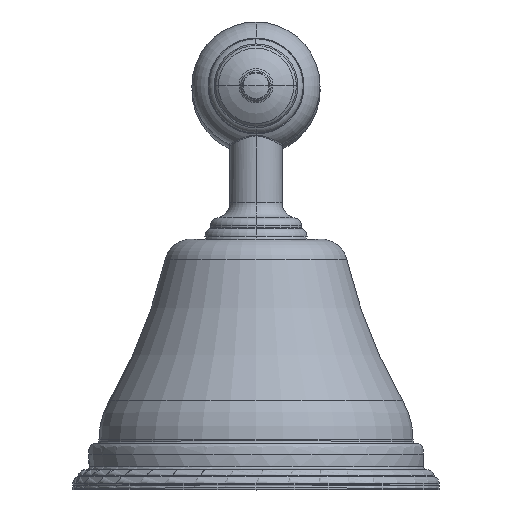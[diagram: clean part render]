
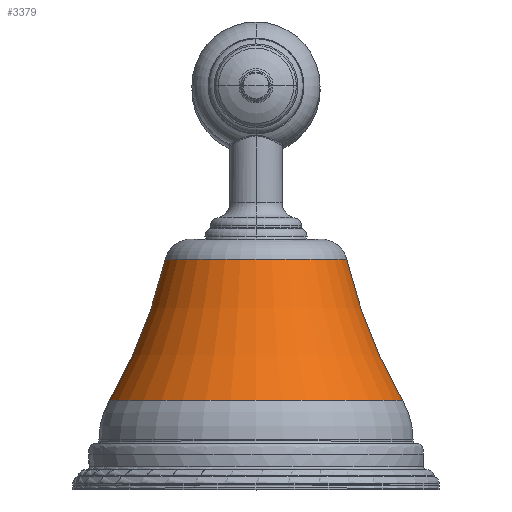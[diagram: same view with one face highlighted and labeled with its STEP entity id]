
A CAD part, top view. The second image highlights one B-rep face of the part: STEP entity #3379.
In plain terms, the highlighted toroidal (fillet/blend) face has major radius 114.652 mm and minor radius 100 mm.
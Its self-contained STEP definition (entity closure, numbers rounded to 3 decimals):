
#2829=CARTESIAN_POINT('',(0.,43.149,488.5));
#2830=DIRECTION('',(0.,1.,0.));
#2831=DIRECTION('',(-1.,0.,0.));
#2832=AXIS2_PLACEMENT_3D('',#2829,#2830,#2831);
#2834=CARTESIAN_POINT('',(0.,16.225,488.5));
#2835=DIRECTION('',(0.,1.,0.));
#2836=DIRECTION('',(-1.,0.,0.));
#2837=AXIS2_PLACEMENT_3D('',#2834,#2835,#2836);
#2890=CARTESIAN_POINT('',(-114.652,66.136,488.5));
#2891=DIRECTION('',(0.,0.,1.));
#2892=DIRECTION('',(0.867,-0.499,0.));
#2893=AXIS2_PLACEMENT_3D('',#2890,#2891,#2892);
#2900=CARTESIAN_POINT('',(114.652,66.136,488.5));
#2901=DIRECTION('',(0.,0.,-1.));
#2902=DIRECTION('',(-0.867,-0.499,0.));
#2903=AXIS2_PLACEMENT_3D('',#2900,#2901,#2902);
#3205=CARTESIAN_POINT('',(27.998,16.225,488.5));
#3206=CARTESIAN_POINT('',(-27.998,16.225,488.5));
#3207=VERTEX_POINT('',#3205);
#3208=VERTEX_POINT('',#3206);
#3217=CARTESIAN_POINT('',(17.33,43.149,488.5));
#3218=CARTESIAN_POINT('',(-17.33,43.149,488.5));
#3219=VERTEX_POINT('',#3217);
#3220=VERTEX_POINT('',#3218);
#3364=CARTESIAN_POINT('',(0.,66.136,488.5));
#3365=DIRECTION('',(0.,-1.,0.));
#3366=DIRECTION('',(-1.,0.,0.));
#3367=AXIS2_PLACEMENT_3D('',#3364,#3365,#3366);
#3368=TOROIDAL_SURFACE('',#3367,114.652,100.);
#3370=ORIENTED_EDGE('',*,*,#3369,.T.);
#3372=ORIENTED_EDGE('',*,*,#3371,.F.);
#3374=ORIENTED_EDGE('',*,*,#3373,.F.);
#3376=ORIENTED_EDGE('',*,*,#3375,.T.);
#3377=EDGE_LOOP('',(#3370,#3372,#3374,#3376));
#3378=FACE_OUTER_BOUND('',#3377,.F.);
#3379=ADVANCED_FACE('',(#3378),#3368,.F.);
#2833=CIRCLE('',#2832,17.33);
#2838=CIRCLE('',#2837,27.998);
#2894=CIRCLE('',#2893,100.);
#2904=CIRCLE('',#2903,100.);
#3369=EDGE_CURVE('',#3220,#3219,#2833,.T.);
#3371=EDGE_CURVE('',#3207,#3219,#2904,.T.);
#3373=EDGE_CURVE('',#3208,#3207,#2838,.T.);
#3375=EDGE_CURVE('',#3208,#3220,#2894,.T.);
